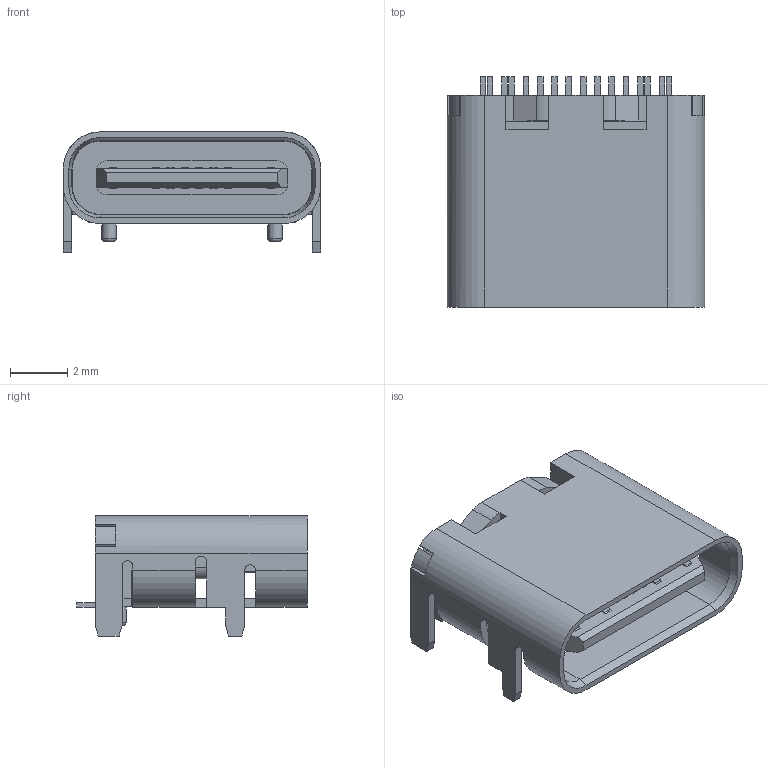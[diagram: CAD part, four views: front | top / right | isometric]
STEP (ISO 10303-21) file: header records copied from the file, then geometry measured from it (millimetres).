
FILE_DESCRIPTION(('FreeCAD Model'),'2;1');
FILE_NAME('Open CASCADE Shape Model','2026-04-19T23:33:23',(''),(''), 'Open CASCADE STEP processor 7.8','FreeCAD','Unknown');
FILE_SCHEMA(('AUTOMOTIVE_DESIGN { 1 0 10303 214 1 1 1 1 }'));
Length unit declared in the file: millimetre
Products named in the file (37): USB-C-16pins; tongue; shield; contact_languette; contact_001; contact_002; contact_003; contact_004; contact_court_001; contact_court_002; contact_court_003; contact_court_004; contact_005; contact_006; contact_007; contact_008; contact_court_005; contact_court_006; contact_court_007; contact_court_008; Pins; pin_001; pin_002; pin_003; pin_004; pin_005; pin_006; pin_007; pin_008; pin_009; pin_010; pin_011; pin_012; pin_013; pin_014; pin_015; pin_016
Assembly tree (36 placements, depth 3):
  USB-C-16pins
    tongue
    shield
    contact_languette
      contact_001
      contact_002
      contact_003
      contact_004
      contact_court_001
      contact_court_002
      contact_court_003
      contact_court_004
      contact_005
      contact_006
      contact_007
      contact_008
      contact_court_005
      contact_court_006
      contact_court_007
      contact_court_008
    Pins
      pin_001
      pin_002
      pin_003
      pin_004
      pin_005
      pin_006
      pin_007
      pin_008
      pin_009
      pin_010
      pin_011
      pin_012
      pin_013
      pin_014
      pin_015
      pin_016
Bounding box: 9 x 8.05 x 4.2 mm (x, y, z)
Volume: 121 mm3; surface area: 504.5 mm2
Topology: 34 solids, 34 shells, 359 faces, 862 edges, 570 vertices
Faces by surface type: plane 315, cylinder 38, cone 4, torus 2
Full cylindrical faces by diameter (mm): 0.5 x2
Entity records: 11228 total; most frequent: CARTESIAN_POINT 1828, DIRECTION 1750, ORIENTED_EDGE 1724, EDGE_CURVE 862, LINE 766, VECTOR 766, VERTEX_POINT 570, AXIS2_PLACEMENT_3D 492
